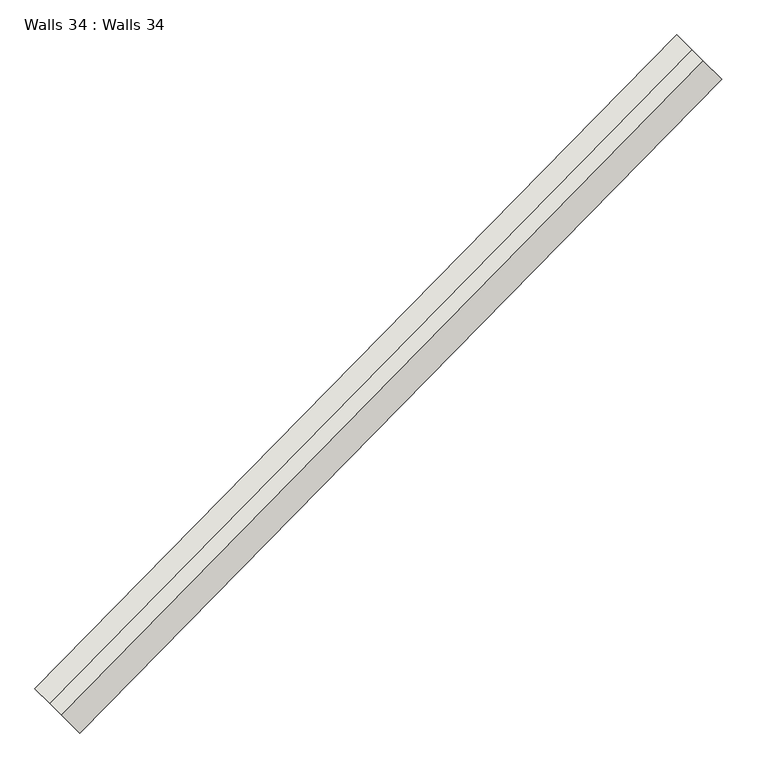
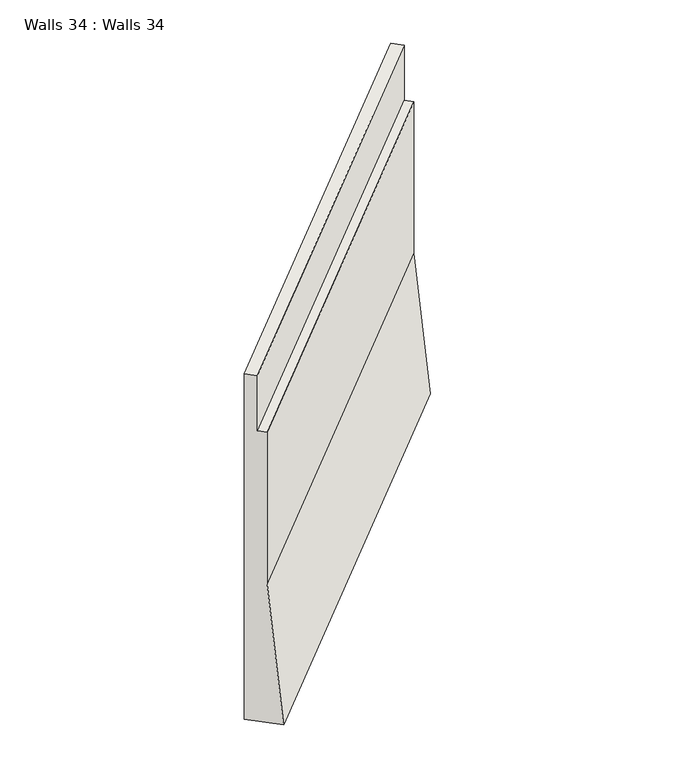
"""IFC4 building model written with IfcOpenShell, lengths in millimetres: wall geometry, Walls 34 : Walls 34."""

from ifc_helpers import new_model, si_unit, origin, place, context, project, spatial, faceted_brep, source, transform, mapped, element, save


def walls_34_walls_34_c97f7b18(model_context):
    return source(origin(), model_context, "Body", "Brep", [
        faceted_brep([(-184757.1459225, -343617.8652235, 642390.0), (-184757.1459225, -343617.8652235, 636140.0), (-184328.9254426, -344038.1381347, 636140.0), (-184507.3519171, -343863.0231707, 638640.0), (-184507.3519171, -343863.0231707, 641390.0), (-184614.4064909, -343757.9554791, 641390.0), (-184614.4064909, -343757.9554791, 642390.0), (-178663.2064766, -337408.6863663, 642470.0), (-178520.467045, -337548.7766218, 642470.0), (-178520.467045, -337548.7766218, 641470.0), (-178413.4124712, -337653.8443135, 641470.0), (-178413.4124712, -337653.8443135, 638730.0), (-178234.9859967, -337828.9592774, 636230.0), (-178663.2064766, -337408.6863663, 636230.0)], [[[0, 1, 2, 3, 4, 5, 6]], [[7, 8, 9, 10, 11, 12, 13]], [[7, 13, 1, 0]], [[13, 12, 2, 1]], [[12, 11, 3, 2]], [[11, 10, 4, 3]], [[10, 9, 5, 4]], [[9, 8, 6, 5]], [[8, 7, 0, 6]]]),
    ])


if __name__ == "__main__":
    model = new_model("IFC4")
    model_context = context("Model", 3, world=origin())
    ifc_project = project(units=[si_unit("LENGTHUNIT", "METRE", prefix="MILLI")], contexts=[model_context])
    site = spatial("IfcSite", under=ifc_project)
    building = spatial("IfcBuilding", under=site)
    placement = place(None, origin())
    walls_34_walls_34_shape = walls_34_walls_34_c97f7b18(model_context)
    element("IfcWall", 1, ObjectType="Walls 34 : Walls 34", at=placement, inside=building, context=model_context, shape_type="MappedRepresentation", body=[
        mapped(walls_34_walls_34_shape, transform((0.0, 0.0, 0.0), x_axis=(1.0, 0.0, 0.0), y_axis=(0.0, 1.0, 0.0), z_axis=(0.0, 0.0, 1.0))),
    ])
    save(model, "model.ifc")
